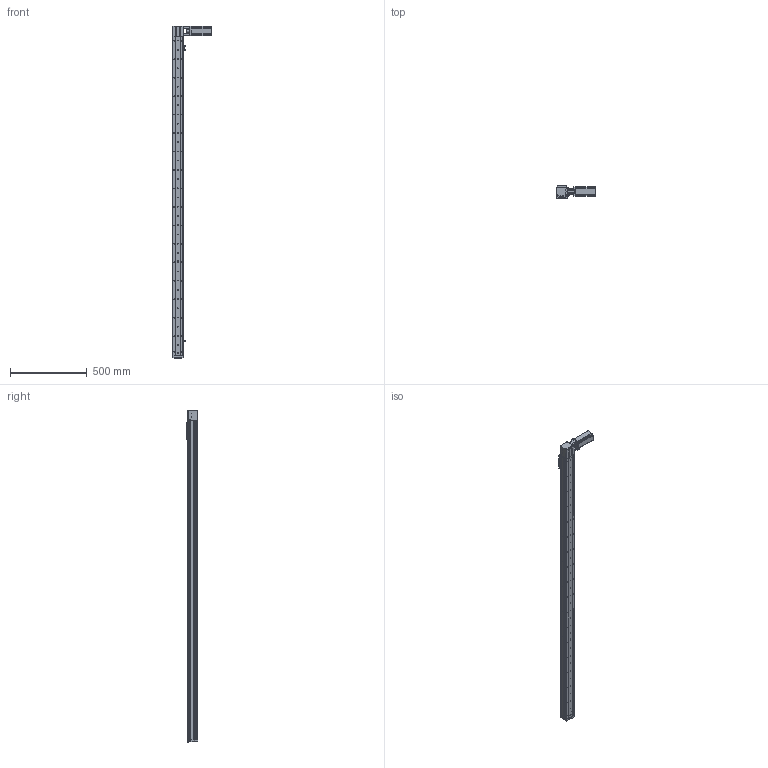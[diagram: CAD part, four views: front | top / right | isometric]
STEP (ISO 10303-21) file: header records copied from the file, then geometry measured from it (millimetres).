
FILE_DESCRIPTION (( 'STEP AP214' ), '1' );
FILE_NAME ('KSD68BS-S1900-MRT-CR.STEP', '2019-08-27T07:39:47', ( '微软用户' ), ( '微软中国' ), 'SwSTEP 2.0', 'SolidWorks 2014', '' );
FILE_SCHEMA (( 'AUTOMOTIVE_DESIGN' ));
Length unit declared in the file: millimetre
Products named in the file (13): U倰嫖萇EEㄜSX672; 台达ECMA－C20604AS伺服电机（400W); KSD68BS 1900行程底板全封闭; KSD68BS-S1900-MRT-CR; 100遵鎮湛假蚾啣1; KSD68BS 1900行程盖板全封闭; 68遵裔啣揤啣1; 68宽单导轨全封闭丝杆传动安装板1防护罩; KSD68BS 1900行程侧板全封闭; 68宽单导轨全封闭同步带端板; 68单导轨全封闭同步带电机座左; 68单导轨全封闭同步带安装板; 感应片68宽全封闭
Assembly tree (16 placements, depth 2):
  KSD68BS-S1900-MRT-CR
    KSD68BS 1900行程底板全封闭
    台达ECMA－C20604AS伺服电机（400W)
    U倰嫖萇EEㄜSX672  x3
    感应片68宽全封闭
    68单导轨全封闭同步带安装板
    68单导轨全封闭同步带电机座左
    68宽单导轨全封闭同步带端板
    KSD68BS 1900行程侧板全封闭  x2
    68宽单导轨全封闭丝杆传动安装板1防护罩
    68遵裔啣揤啣1  x2
    KSD68BS 1900行程盖板全封闭
    100遵鎮湛假蚾啣1
Bounding box: 252.7 x 77 x 2158.1 mm (x, y, z)
Volume: 3697726.7 mm3; surface area: 1505595.4 mm2
Topology: 17 solids, 17 shells, 1593 faces, 4622 edges, 2936 vertices
Faces by surface type: cylinder 791, plane 602, cone 200
Entity records: 52786 total; most frequent: CARTESIAN_POINT 9253, DIRECTION 7761, ORIENTED_EDGE 7432, EDGE_CURVE 3716, AXIS2_PLACEMENT_3D 2848, VERTEX_POINT 2434, LINE 2065, VECTOR 2065
